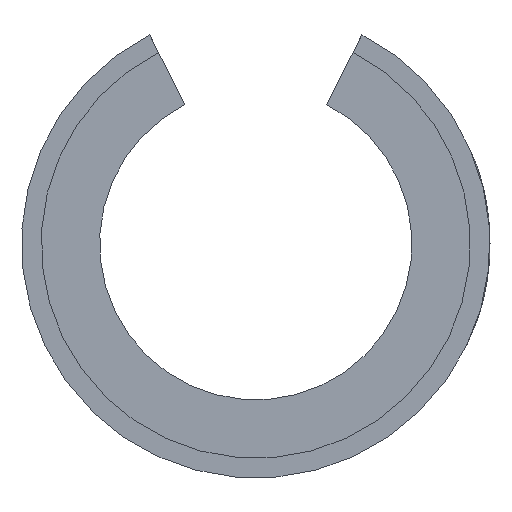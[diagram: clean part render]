
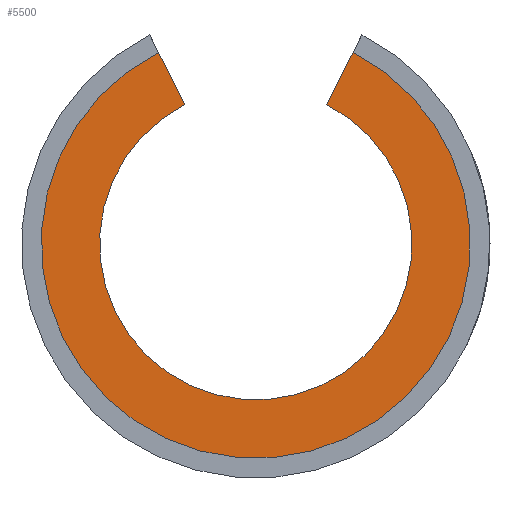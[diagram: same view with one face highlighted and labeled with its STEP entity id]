
A CAD part, left-side view. The second image highlights one B-rep face of the part: STEP entity #5500.
In plain terms, the highlighted planar face has unit normal (-1, 0, 0).
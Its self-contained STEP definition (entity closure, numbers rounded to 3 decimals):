
#125=PLANE('',#5931);
#366=CIRCLE('',#5907,30.);
#378=CIRCLE('',#5932,41.211);
#572=LINE('',#8830,#1042);
#573=LINE('',#8834,#1043);
#1042=VECTOR('',#6548,1000.);
#1043=VECTOR('',#6551,1000.);
#1694=ORIENTED_EDGE('',*,*,#3343,.T.);
#1695=ORIENTED_EDGE('',*,*,#3344,.F.);
#1696=ORIENTED_EDGE('',*,*,#3345,.T.);
#1697=ORIENTED_EDGE('',*,*,#3306,.T.);
#3306=EDGE_CURVE('',#4138,#4137,#366,.F.);
#3343=EDGE_CURVE('',#4137,#4161,#572,.T.);
#3344=EDGE_CURVE('',#4162,#4161,#378,.T.);
#3345=EDGE_CURVE('',#4162,#4138,#573,.T.);
#4137=VERTEX_POINT('',#8756);
#4138=VERTEX_POINT('',#8758);
#4161=VERTEX_POINT('',#8831);
#4162=VERTEX_POINT('',#8833);
#4698=EDGE_LOOP('',(#1694,#1695,#1696,#1697));
#5089=FACE_BOUND('',#4698,.T.);
#5500=ADVANCED_FACE('',(#5089),#125,.T.);
#5907=AXIS2_PLACEMENT_3D('',#8757,#6473,#6474);
#5931=AXIS2_PLACEMENT_3D('',#8829,#6546,#6547);
#5932=AXIS2_PLACEMENT_3D('',#8832,#6549,#6550);
#6473=DIRECTION('',(-1.,0.,0.));
#6474=DIRECTION('',(0.,0.,1.));
#6546=DIRECTION('',(-1.,0.,0.));
#6547=DIRECTION('',(0.,0.,-1.));
#6548=DIRECTION('',(0.,0.454,0.891));
#6549=DIRECTION('',(1.,0.,0.));
#6550=DIRECTION('',(0.,0.,-1.));
#6551=DIRECTION('',(0.,0.454,-0.891));
#8756=CARTESIAN_POINT('',(-58.5,13.6,26.74));
#8757=CARTESIAN_POINT('',(-58.5,0.,0.));
#8758=CARTESIAN_POINT('',(-58.5,-13.6,26.74));
#8829=CARTESIAN_POINT('',(-58.5,0.,0.));
#8830=CARTESIAN_POINT('',(-58.5,13.6,26.74));
#8831=CARTESIAN_POINT('',(-58.5,18.69,36.73));
#8832=CARTESIAN_POINT('',(-58.5,0.,0.));
#8833=CARTESIAN_POINT('',(-58.5,-18.69,36.73));
#8834=CARTESIAN_POINT('',(-58.5,-13.6,26.74));
